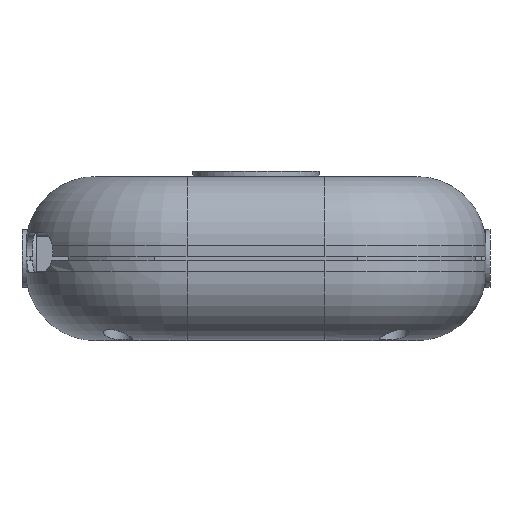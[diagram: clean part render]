
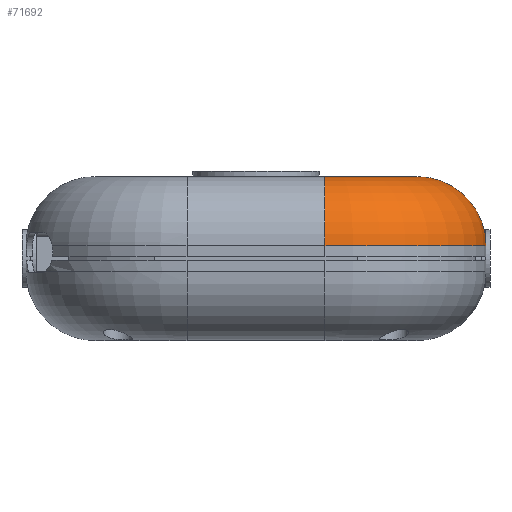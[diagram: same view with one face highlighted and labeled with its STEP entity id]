
A CAD part, front view. The second image highlights one B-rep face of the part: STEP entity #71692.
In plain terms, the highlighted toroidal (fillet/blend) face has major radius 16 mm and minor radius 12 mm.
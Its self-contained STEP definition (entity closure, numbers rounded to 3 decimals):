
#68476 = PLANE('',#68477);
#68477 = AXIS2_PLACEMENT_3D('',#68478,#68479,#68480);
#68478 = CARTESIAN_POINT('',(-40.,-64.,28.5));
#68479 = DIRECTION('',(0.,0.,1.));
#68480 = DIRECTION('',(1.,0.,-0.));
#68765 = CYLINDRICAL_SURFACE('',#68766,12.);
#68766 = AXIS2_PLACEMENT_3D('',#68767,#68768,#68769);
#68767 = CARTESIAN_POINT('',(12.,-52.,16.5));
#68768 = DIRECTION('',(-1.,-0.,-0.));
#68769 = DIRECTION('',(-0.,0.,1.));
#69195 = VERTEX_POINT('',#69196);
#69196 = CARTESIAN_POINT('',(12.,-52.,28.5));
#69217 = EDGE_CURVE('',#69218,#69195,#69220,.T.);
#69218 = VERTEX_POINT('',#69219);
#69219 = CARTESIAN_POINT('',(28.,-36.,28.5));
#69220 = SURFACE_CURVE('',#69221,(#69226,#69237),.PCURVE_S1.);
#69221 = CIRCLE('',#69222,16.);
#69222 = AXIS2_PLACEMENT_3D('',#69223,#69224,#69225);
#69223 = CARTESIAN_POINT('',(12.,-36.,28.5));
#69224 = DIRECTION('',(0.,0.,-1.));
#69225 = DIRECTION('',(1.,0.,0.));
#69226 = PCURVE('',#68476,#69227);
#69227 = DEFINITIONAL_REPRESENTATION('',(#69228),#69236);
#69228 = ( BOUNDED_CURVE() B_SPLINE_CURVE(2,(#69229,#69230,#69231,#69232
    ,#69233,#69234,#69235),.UNSPECIFIED.,.T.,.F.) 
B_SPLINE_CURVE_WITH_KNOTS((1,2,2,2,2,1),(-2.094,0.,
    2.094,4.189,6.283,8.378),
.UNSPECIFIED.) CURVE() GEOMETRIC_REPRESENTATION_ITEM() 
RATIONAL_B_SPLINE_CURVE((1.,0.5,1.,0.5,1.,0.5,1.)) REPRESENTATION_ITEM(
  '') );
#69229 = CARTESIAN_POINT('',(68.,28.));
#69230 = CARTESIAN_POINT('',(68.,0.287));
#69231 = CARTESIAN_POINT('',(44.,14.144));
#69232 = CARTESIAN_POINT('',(20.,28.));
#69233 = CARTESIAN_POINT('',(44.,41.856));
#69234 = CARTESIAN_POINT('',(68.,55.713));
#69235 = CARTESIAN_POINT('',(68.,28.));
#69236 = ( GEOMETRIC_REPRESENTATION_CONTEXT(2) 
PARAMETRIC_REPRESENTATION_CONTEXT() REPRESENTATION_CONTEXT('2D SPACE',''
  ) );
#69237 = PCURVE('',#69238,#69243);
#69238 = TOROIDAL_SURFACE('',#69239,16.,12.);
#69239 = AXIS2_PLACEMENT_3D('',#69240,#69241,#69242);
#69240 = CARTESIAN_POINT('',(12.,-36.,16.5));
#69241 = DIRECTION('',(-0.,-0.,-1.));
#69242 = DIRECTION('',(1.,0.,0.));
#69243 = DEFINITIONAL_REPRESENTATION('',(#69244),#69248);
#69244 = LINE('',#69245,#69246);
#69245 = CARTESIAN_POINT('',(0.,4.712));
#69246 = VECTOR('',#69247,1.);
#69247 = DIRECTION('',(1.,0.));
#69248 = ( GEOMETRIC_REPRESENTATION_CONTEXT(2) 
PARAMETRIC_REPRESENTATION_CONTEXT() REPRESENTATION_CONTEXT('2D SPACE',''
  ) );
#69266 = CYLINDRICAL_SURFACE('',#69267,12.);
#69267 = AXIS2_PLACEMENT_3D('',#69268,#69269,#69270);
#69268 = CARTESIAN_POINT('',(28.,36.,16.5));
#69269 = DIRECTION('',(-0.,-1.,-0.));
#69270 = DIRECTION('',(0.,0.,1.));
#70205 = VERTEX_POINT('',#70206);
#70206 = CARTESIAN_POINT('',(12.,-64.,16.5));
#70232 = EDGE_CURVE('',#69195,#70205,#70233,.T.);
#70233 = SURFACE_CURVE('',#70234,(#70239,#70245),.PCURVE_S1.);
#70234 = CIRCLE('',#70235,12.);
#70235 = AXIS2_PLACEMENT_3D('',#70236,#70237,#70238);
#70236 = CARTESIAN_POINT('',(12.,-52.,16.5));
#70237 = DIRECTION('',(1.,0.,0.));
#70238 = DIRECTION('',(0.,-1.,0.));
#70239 = PCURVE('',#68765,#70240);
#70240 = DEFINITIONAL_REPRESENTATION('',(#70241),#70244);
#70241 = B_SPLINE_CURVE_WITH_KNOTS('',1,(#70242,#70243),.UNSPECIFIED.,
  .F.,.F.,(2,2),(4.712,6.283),
  .PIECEWISE_BEZIER_KNOTS.);
#70242 = CARTESIAN_POINT('',(6.283,0.));
#70243 = CARTESIAN_POINT('',(4.712,0.));
#70244 = ( GEOMETRIC_REPRESENTATION_CONTEXT(2) 
PARAMETRIC_REPRESENTATION_CONTEXT() REPRESENTATION_CONTEXT('2D SPACE',''
  ) );
#70245 = PCURVE('',#69238,#70246);
#70246 = DEFINITIONAL_REPRESENTATION('',(#70247),#70250);
#70247 = B_SPLINE_CURVE_WITH_KNOTS('',1,(#70248,#70249),.UNSPECIFIED.,
  .F.,.F.,(2,2),(4.712,6.283),
  .PIECEWISE_BEZIER_KNOTS.);
#70248 = CARTESIAN_POINT('',(1.571,4.712));
#70249 = CARTESIAN_POINT('',(1.571,6.283));
#70250 = ( GEOMETRIC_REPRESENTATION_CONTEXT(2) 
PARAMETRIC_REPRESENTATION_CONTEXT() REPRESENTATION_CONTEXT('2D SPACE',''
  ) );
#71177 = EDGE_CURVE('',#69218,#71178,#71180,.T.);
#71178 = VERTEX_POINT('',#71179);
#71179 = CARTESIAN_POINT('',(40.,-36.,16.5));
#71180 = SURFACE_CURVE('',#71181,(#71186,#71192),.PCURVE_S1.);
#71181 = CIRCLE('',#71182,12.);
#71182 = AXIS2_PLACEMENT_3D('',#71183,#71184,#71185);
#71183 = CARTESIAN_POINT('',(28.,-36.,16.5));
#71184 = DIRECTION('',(0.,1.,0.));
#71185 = DIRECTION('',(0.,-0.,1.));
#71186 = PCURVE('',#69266,#71187);
#71187 = DEFINITIONAL_REPRESENTATION('',(#71188),#71191);
#71188 = B_SPLINE_CURVE_WITH_KNOTS('',1,(#71189,#71190),.UNSPECIFIED.,
  .F.,.F.,(2,2),(0.,1.571),.PIECEWISE_BEZIER_KNOTS.);
#71189 = CARTESIAN_POINT('',(6.283,72.));
#71190 = CARTESIAN_POINT('',(4.712,72.));
#71191 = ( GEOMETRIC_REPRESENTATION_CONTEXT(2) 
PARAMETRIC_REPRESENTATION_CONTEXT() REPRESENTATION_CONTEXT('2D SPACE',''
  ) );
#71192 = PCURVE('',#69238,#71193);
#71193 = DEFINITIONAL_REPRESENTATION('',(#71194),#71197);
#71194 = B_SPLINE_CURVE_WITH_KNOTS('',1,(#71195,#71196),.UNSPECIFIED.,
  .F.,.F.,(2,2),(0.,1.571),.PIECEWISE_BEZIER_KNOTS.);
#71195 = CARTESIAN_POINT('',(0.,4.712));
#71196 = CARTESIAN_POINT('',(0.,6.283));
#71197 = ( GEOMETRIC_REPRESENTATION_CONTEXT(2) 
PARAMETRIC_REPRESENTATION_CONTEXT() REPRESENTATION_CONTEXT('2D SPACE',''
  ) );
#71692 = ADVANCED_FACE('',(#71693),#69238,.T.);
#71693 = FACE_BOUND('',#71694,.T.);
#71694 = EDGE_LOOP('',(#71695,#71696,#71697,#71698));
#71695 = ORIENTED_EDGE('',*,*,#71177,.F.);
#71696 = ORIENTED_EDGE('',*,*,#69217,.T.);
#71697 = ORIENTED_EDGE('',*,*,#70232,.T.);
#71698 = ORIENTED_EDGE('',*,*,#71699,.F.);
#71699 = EDGE_CURVE('',#71178,#70205,#71700,.T.);
#71700 = SURFACE_CURVE('',#71701,(#71706,#71713),.PCURVE_S1.);
#71701 = CIRCLE('',#71702,28.);
#71702 = AXIS2_PLACEMENT_3D('',#71703,#71704,#71705);
#71703 = CARTESIAN_POINT('',(12.,-36.,16.5));
#71704 = DIRECTION('',(0.,0.,-1.));
#71705 = DIRECTION('',(1.,0.,0.));
#71706 = PCURVE('',#69238,#71707);
#71707 = DEFINITIONAL_REPRESENTATION('',(#71708),#71712);
#71708 = LINE('',#71709,#71710);
#71709 = CARTESIAN_POINT('',(0.,6.283));
#71710 = VECTOR('',#71711,1.);
#71711 = DIRECTION('',(1.,0.));
#71712 = ( GEOMETRIC_REPRESENTATION_CONTEXT(2) 
PARAMETRIC_REPRESENTATION_CONTEXT() REPRESENTATION_CONTEXT('2D SPACE',''
  ) );
#71713 = PCURVE('',#71714,#71719);
#71714 = CYLINDRICAL_SURFACE('',#71715,28.);
#71715 = AXIS2_PLACEMENT_3D('',#71716,#71717,#71718);
#71716 = CARTESIAN_POINT('',(12.,-36.,0.));
#71717 = DIRECTION('',(0.,0.,1.));
#71718 = DIRECTION('',(1.,0.,-0.));
#71719 = DEFINITIONAL_REPRESENTATION('',(#71720),#71724);
#71720 = LINE('',#71721,#71722);
#71721 = CARTESIAN_POINT('',(6.283,16.5));
#71722 = VECTOR('',#71723,1.);
#71723 = DIRECTION('',(-1.,0.));
#71724 = ( GEOMETRIC_REPRESENTATION_CONTEXT(2) 
PARAMETRIC_REPRESENTATION_CONTEXT() REPRESENTATION_CONTEXT('2D SPACE',''
  ) );
